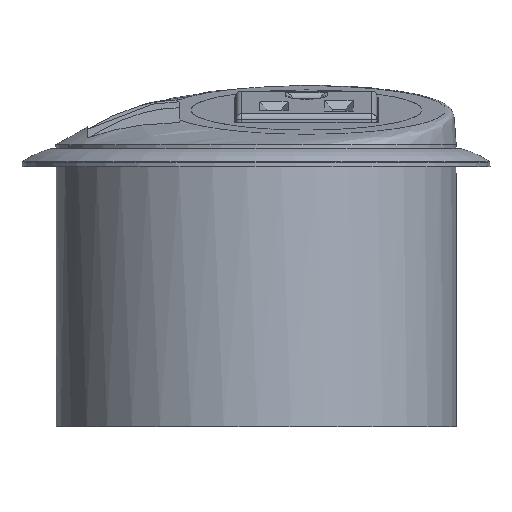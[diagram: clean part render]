
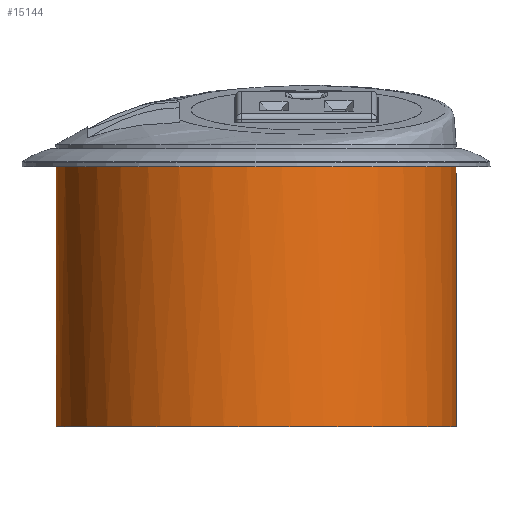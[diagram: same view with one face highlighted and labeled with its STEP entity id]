
A CAD part, front view. The second image highlights one B-rep face of the part: STEP entity #15144.
In plain terms, the highlighted cylindrical face has radius 38.5 mm (diameter 77 mm), a full revolution.
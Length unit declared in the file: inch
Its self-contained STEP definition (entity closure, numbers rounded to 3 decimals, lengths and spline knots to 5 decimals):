
#15065=CARTESIAN_POINT('',(1.14046,-0.99834,-2.1063));
#15066=VERTEX_POINT('',#15065);
#15067=CARTESIAN_POINT('',(0.00001,0.00009,-2.1063));
#15068=DIRECTION('',(0.0,0.0,-1.0));
#15069=DIRECTION('',(-1.0,0.0,0.0));
#15070=AXIS2_PLACEMENT_3D('',#15067,#15068,#15069);
#15071=CIRCLE('',#15070,1.51575);
#15072=EDGE_CURVE('',#15066,#15066,#15071,.T.);
#15125=CARTESIAN_POINT('',(0.00001,0.00009,-0.25661));
#15126=DIRECTION('',(0.,0.0,1.0));
#15127=DIRECTION('',(-1.0,0.0,0.0));
#15128=AXIS2_PLACEMENT_3D('',#15125,#15126,#15127);
#15129=CYLINDRICAL_SURFACE('',#15128,1.51575);
#15130=ORIENTED_EDGE('',*,*,#15072,.F.);
#15131=EDGE_LOOP('',(#15130));
#15132=FACE_OUTER_BOUND('',#15131,.T.);
#15133=CARTESIAN_POINT('',(0.81619,1.27733,-0.1378));
#15134=VERTEX_POINT('',#15133);
#15135=CARTESIAN_POINT('',(0.00001,0.00009,-0.1378));
#15136=DIRECTION('',(0.0,0.0,1.0));
#15137=DIRECTION('',(0.0,-1.0,0.0));
#15138=AXIS2_PLACEMENT_3D('',#15135,#15136,#15137);
#15139=CIRCLE('',#15138,1.51575);
#15140=EDGE_CURVE('',#15134,#15134,#15139,.T.);
#15141=ORIENTED_EDGE('',*,*,#15140,.F.);
#15142=EDGE_LOOP('',(#15141));
#15143=FACE_BOUND('',#15142,.T.);
#15144=ADVANCED_FACE('',(#15132,#15143),#15129,.T.);
